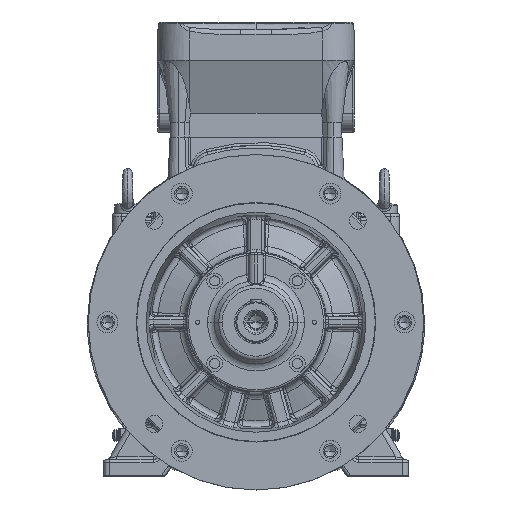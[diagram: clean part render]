
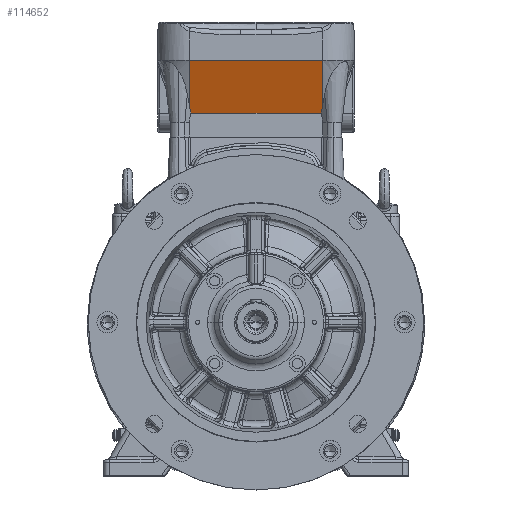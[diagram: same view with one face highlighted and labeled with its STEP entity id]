
A CAD part, top view. The second image highlights one B-rep face of the part: STEP entity #114652.
In plain terms, the highlighted planar face has unit normal (0, -0.342, 0.94).
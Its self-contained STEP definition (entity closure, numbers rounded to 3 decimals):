
#729 = ORIENTED_EDGE ( 'NONE', *, *, #26870, .F. ) ;
#789 = ORIENTED_EDGE ( 'NONE', *, *, #105970, .F. ) ;
#2818 = CARTESIAN_POINT ( 'NONE',  ( -69.5, 273.5, 147. ) ) ;
#4025 = VERTEX_POINT ( 'NONE', #137279 ) ;
#4383 = EDGE_CURVE ( 'NONE', #133656, #69045, #167816, .T. ) ;
#8438 = CARTESIAN_POINT ( 'NONE',  ( -69.5, 273.5, 147. ) ) ;
#12583 = EDGE_CURVE ( 'NONE', #4025, #89177, #33996, .T. ) ;
#14698 = CARTESIAN_POINT ( 'NONE',  ( -72.183, 210.82, 124.186 ) ) ;
#16636 = DIRECTION ( 'NONE',  ( 0., -0.342, 0.94 ) ) ;
#17792 = CARTESIAN_POINT ( 'NONE',  ( -69.5, 226.29, 129.817 ) ) ;
#18259 = CARTESIAN_POINT ( 'NONE',  ( 16.529, 314.34, 161.865 ) ) ;
#18659 = VECTOR ( 'NONE', #132164, 1000. ) ;
#19708 = LINE ( 'NONE', #18259, #177209 ) ;
#20195 = VECTOR ( 'NONE', #150274, 1000. ) ;
#26870 = EDGE_CURVE ( 'NONE', #76692, #4025, #27446, .T. ) ;
#27438 = ORIENTED_EDGE ( 'NONE', *, *, #12583, .F. ) ;
#27446 = LINE ( 'NONE', #14698, #206747 ) ;
#29238 = VECTOR ( 'NONE', #49714, 1000. ) ;
#33974 = VERTEX_POINT ( 'NONE', #98186 ) ;
#33996 = LINE ( 'NONE', #101223, #63830 ) ;
#39281 = ORIENTED_EDGE ( 'NONE', *, *, #167904, .F. ) ;
#44575 = EDGE_CURVE ( 'NONE', #114555, #133656, #184120, .T. ) ;
#49714 = DIRECTION ( 'NONE',  ( 0., 0.94, 0.342 ) ) ;
#58235 = EDGE_LOOP ( 'NONE', ( #167567, #105266, #183098, #59591, #39281, #789, #27438, #729 ) ) ;
#59591 = ORIENTED_EDGE ( 'NONE', *, *, #4383, .T. ) ;
#63245 = CARTESIAN_POINT ( 'NONE',  ( 73.898, 249.4, 138.228 ) ) ;
#63707 = CARTESIAN_POINT ( 'NONE',  ( 82.5, 218.5, 126.982 ) ) ;
#63830 = VECTOR ( 'NONE', #120163, 1000. ) ;
#64547 = CARTESIAN_POINT ( 'NONE',  ( 68.027, 218.55, 127. ) ) ;
#67465 = LINE ( 'NONE', #8438, #18659 ) ;
#67564 = DIRECTION ( 'NONE',  ( -1., 0., 0. ) ) ;
#69045 = VERTEX_POINT ( 'NONE', #154812 ) ;
#69167 = CARTESIAN_POINT ( 'NONE',  ( 69.5, 226.29, 129.817 ) ) ;
#76692 = VERTEX_POINT ( 'NONE', #187975 ) ;
#81742 = CARTESIAN_POINT ( 'NONE',  ( 69.5, 273.5, 147. ) ) ;
#89177 = VERTEX_POINT ( 'NONE', #17792 ) ;
#98186 = CARTESIAN_POINT ( 'NONE',  ( 68.054, 218.5, 126.982 ) ) ;
#100264 = PLANE ( 'NONE',  #207225 ) ;
#101223 = CARTESIAN_POINT ( 'NONE',  ( -66.848, 212.357, 124.746 ) ) ;
#105266 = ORIENTED_EDGE ( 'NONE', *, *, #146578, .T. ) ;
#105970 = EDGE_CURVE ( 'NONE', #89177, #162655, #153592, .T. ) ;
#114555 = VERTEX_POINT ( 'NONE', #64547 ) ;
#114652 = ADVANCED_FACE ( 'NONE', ( #131215 ), #100264, .T. ) ;
#120163 = DIRECTION ( 'NONE',  ( -0.176, 0.925, 0.337 ) ) ;
#131215 = FACE_OUTER_BOUND ( 'NONE', #58235, .T. ) ;
#132164 = DIRECTION ( 'NONE',  ( 1., 0., 0. ) ) ;
#133656 = VERTEX_POINT ( 'NONE', #69167 ) ;
#137279 = CARTESIAN_POINT ( 'NONE',  ( -68.027, 218.55, 127. ) ) ;
#138133 = CARTESIAN_POINT ( 'NONE',  ( -69.5, 273.5, 147. ) ) ;
#146578 = EDGE_CURVE ( 'NONE', #33974, #114555, #19708, .T. ) ;
#150274 = DIRECTION ( 'NONE',  ( 1., 0., 0. ) ) ;
#150511 = LINE ( 'NONE', #63707, #20195 ) ;
#153592 = LINE ( 'NONE', #2818, #180786 ) ;
#154812 = CARTESIAN_POINT ( 'NONE',  ( 69.5, 273.5, 147. ) ) ;
#162655 = VERTEX_POINT ( 'NONE', #221479 ) ;
#167567 = ORIENTED_EDGE ( 'NONE', *, *, #211464, .T. ) ;
#167816 = LINE ( 'NONE', #81742, #29238 ) ;
#167904 = EDGE_CURVE ( 'NONE', #162655, #69045, #67465, .T. ) ;
#173902 = DIRECTION ( 'NONE',  ( -0.451, 0.839, 0.305 ) ) ;
#177209 = VECTOR ( 'NONE', #173902, 1000. ) ;
#180786 = VECTOR ( 'NONE', #211640, 1000. ) ;
#183098 = ORIENTED_EDGE ( 'NONE', *, *, #44575, .T. ) ;
#184120 = LINE ( 'NONE', #63245, #192389 ) ;
#187975 = CARTESIAN_POINT ( 'NONE',  ( -68.054, 218.5, 126.982 ) ) ;
#192389 = VECTOR ( 'NONE', #223396, 1000. ) ;
#204508 = DIRECTION ( 'NONE',  ( 0.451, 0.839, 0.305 ) ) ;
#206747 = VECTOR ( 'NONE', #204508, 1000. ) ;
#207225 = AXIS2_PLACEMENT_3D ( 'NONE', #138133, #16636, #67564 ) ;
#211464 = EDGE_CURVE ( 'NONE', #76692, #33974, #150511, .T. ) ;
#211640 = DIRECTION ( 'NONE',  ( 0., 0.94, 0.342 ) ) ;
#221479 = CARTESIAN_POINT ( 'NONE',  ( -69.5, 273.5, 147. ) ) ;
#223396 = DIRECTION ( 'NONE',  ( 0.176, 0.925, 0.337 ) ) ;
